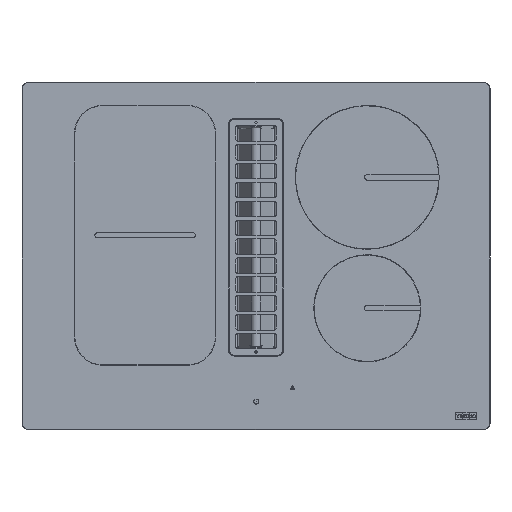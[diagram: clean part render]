
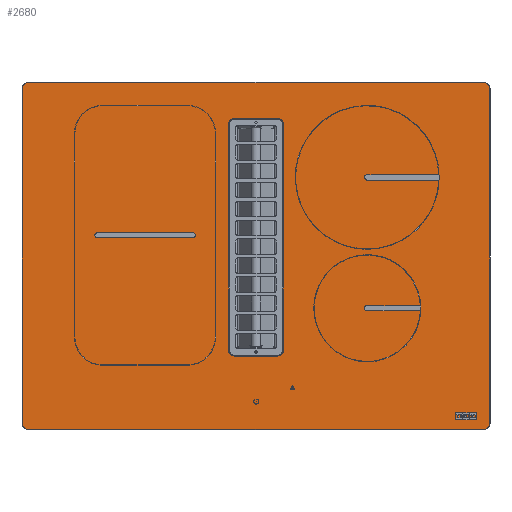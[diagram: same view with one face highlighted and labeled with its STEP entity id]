
A CAD part, top view. The second image highlights one B-rep face of the part: STEP entity #2680.
In plain terms, the highlighted planar face has unit normal (0, 0, 1).
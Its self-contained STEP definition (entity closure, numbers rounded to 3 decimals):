
#28=TRIMMED_CURVE($,#705,(#30401),(#30402),.T.,.CARTESIAN.);
#35=TRIMMED_CURVE($,#712,(#30424),(#30425),.T.,.CARTESIAN.);
#42=TRIMMED_CURVE($,#719,(#30447),(#30448),.T.,.CARTESIAN.);
#48=TRIMMED_CURVE($,#725,(#30467),(#30468),.T.,.CARTESIAN.);
#49=TRIMMED_CURVE($,#726,(#30610),(#30611),.T.,.CARTESIAN.);
#54=TRIMMED_CURVE($,#731,(#30625),(#30626),.T.,.CARTESIAN.);
#58=TRIMMED_CURVE($,#735,(#30637),(#30638),.T.,.CARTESIAN.);
#62=TRIMMED_CURVE($,#739,(#30649),(#30650),.T.,.CARTESIAN.);
#705=CIRCLE('',#19973,9.372);
#712=CIRCLE('',#19980,9.372);
#719=CIRCLE('',#19987,9.372);
#725=CIRCLE('',#19993,9.372);
#726=CIRCLE('',#19994,8.628);
#731=CIRCLE('',#19999,8.628);
#735=CIRCLE('',#20003,8.628);
#739=CIRCLE('',#20007,8.628);
#2680=ADVANCED_FACE('',(#3803,#3531),#19373,.T.);
#3531=FACE_BOUND('',#4885,.T.);
#3803=FACE_OUTER_BOUND('',#4884,.T.);
#4884=EDGE_LOOP('',(#6932,#6933,#6934,#6935,#6936,#6937,#6938,#6939));
#4885=EDGE_LOOP('',(#6940,#6941,#6942,#6943,#6944,#6945,#6946,#6947));
#6932=ORIENTED_EDGE('',*,*,#12154,.T.);
#6933=ORIENTED_EDGE('',*,*,#12170,.T.);
#6934=ORIENTED_EDGE('',*,*,#12155,.T.);
#6935=ORIENTED_EDGE('',*,*,#12178,.T.);
#6936=ORIENTED_EDGE('',*,*,#12156,.T.);
#6937=ORIENTED_EDGE('',*,*,#12186,.T.);
#6938=ORIENTED_EDGE('',*,*,#12157,.T.);
#6939=ORIENTED_EDGE('',*,*,#12193,.T.);
#6940=ORIENTED_EDGE('',*,*,#12264,.T.);
#6941=ORIENTED_EDGE('',*,*,#12158,.T.);
#6942=ORIENTED_EDGE('',*,*,#12269,.T.);
#6943=ORIENTED_EDGE('',*,*,#12159,.T.);
#6944=ORIENTED_EDGE('',*,*,#12273,.T.);
#6945=ORIENTED_EDGE('',*,*,#12160,.T.);
#6946=ORIENTED_EDGE('',*,*,#12277,.T.);
#6947=ORIENTED_EDGE('',*,*,#12161,.T.);
#12154=EDGE_CURVE('',#17911,#17912,#15371,.T.);
#12155=EDGE_CURVE('',#17913,#17914,#15372,.T.);
#12156=EDGE_CURVE('',#17915,#17916,#15373,.T.);
#12157=EDGE_CURVE('',#17917,#17918,#15374,.T.);
#12158=EDGE_CURVE('',#17919,#17920,#15375,.T.);
#12159=EDGE_CURVE('',#17921,#17922,#15376,.T.);
#12160=EDGE_CURVE('',#17923,#17924,#15377,.T.);
#12161=EDGE_CURVE('',#17925,#17926,#15378,.T.);
#12170=EDGE_CURVE('',#17912,#17913,#28,.T.);
#12178=EDGE_CURVE('',#17914,#17915,#35,.T.);
#12186=EDGE_CURVE('',#17916,#17917,#42,.T.);
#12193=EDGE_CURVE('',#17918,#17911,#48,.T.);
#12264=EDGE_CURVE('',#17926,#17919,#49,.T.);
#12269=EDGE_CURVE('',#17920,#17921,#54,.T.);
#12273=EDGE_CURVE('',#17922,#17923,#58,.T.);
#12277=EDGE_CURVE('',#17924,#17925,#62,.T.);
#15371=B_SPLINE_CURVE_WITH_KNOTS('',1,(#30361,#30362),.UNSPECIFIED.,.F.,
 .F.,(2,2),(0.,680.),.UNSPECIFIED.);
#15372=B_SPLINE_CURVE_WITH_KNOTS('',1,(#30363,#30364),.UNSPECIFIED.,.F.,
 .F.,(2,2),(0.,500.),.UNSPECIFIED.);
#15373=B_SPLINE_CURVE_WITH_KNOTS('',1,(#30365,#30366),.UNSPECIFIED.,.F.,
 .F.,(2,2),(0.,680.),.UNSPECIFIED.);
#15374=B_SPLINE_CURVE_WITH_KNOTS('',1,(#30367,#30368),.UNSPECIFIED.,.F.,
 .F.,(2,2),(0.,500.),.UNSPECIFIED.);
#15375=B_SPLINE_CURVE_WITH_KNOTS('',1,(#30369,#30370),.UNSPECIFIED.,.F.,
 .F.,(2,2),(0.,65.),.UNSPECIFIED.);
#15376=B_SPLINE_CURVE_WITH_KNOTS('',1,(#30371,#30372),.UNSPECIFIED.,.F.,
 .F.,(2,2),(0.,338.),.UNSPECIFIED.);
#15377=B_SPLINE_CURVE_WITH_KNOTS('',1,(#30373,#30374),.UNSPECIFIED.,.F.,
 .F.,(2,2),(0.,65.),.UNSPECIFIED.);
#15378=B_SPLINE_CURVE_WITH_KNOTS('',1,(#30375,#30376),.UNSPECIFIED.,.F.,
 .F.,(2,2),(0.,338.),.UNSPECIFIED.);
#17911=VERTEX_POINT('',#30277);
#17912=VERTEX_POINT('',#30278);
#17913=VERTEX_POINT('',#30279);
#17914=VERTEX_POINT('',#30280);
#17915=VERTEX_POINT('',#30281);
#17916=VERTEX_POINT('',#30282);
#17917=VERTEX_POINT('',#30283);
#17918=VERTEX_POINT('',#30284);
#17919=VERTEX_POINT('',#30285);
#17920=VERTEX_POINT('',#30286);
#17921=VERTEX_POINT('',#30287);
#17922=VERTEX_POINT('',#30288);
#17923=VERTEX_POINT('',#30289);
#17924=VERTEX_POINT('',#30290);
#17925=VERTEX_POINT('',#30291);
#17926=VERTEX_POINT('',#30292);
#19373=PLANE('',#19929);
#19929=AXIS2_PLACEMENT_3D('',#29268,#21466,$);
#19973=AXIS2_PLACEMENT_3D($,#30400,#21517,#21518);
#19980=AXIS2_PLACEMENT_3D($,#30423,#21531,#21532);
#19987=AXIS2_PLACEMENT_3D($,#30446,#21545,#21546);
#19993=AXIS2_PLACEMENT_3D($,#30466,#21557,#21558);
#19994=AXIS2_PLACEMENT_3D($,#30609,#21559,#21560);
#19999=AXIS2_PLACEMENT_3D($,#30624,#21569,#21570);
#20003=AXIS2_PLACEMENT_3D($,#30636,#21577,#21578);
#20007=AXIS2_PLACEMENT_3D($,#30648,#21585,#21586);
#21466=DIRECTION('',(0.,0.,1.));
#21517=DIRECTION('',(0.,0.,1.));
#21518=DIRECTION('',(0.,1.,0.));
#21531=DIRECTION('',(0.,0.,1.));
#21532=DIRECTION('',(-1.,0.,0.));
#21545=DIRECTION('',(0.,0.,1.));
#21546=DIRECTION('',(0.,-1.,0.));
#21557=DIRECTION('',(0.,0.,1.));
#21558=DIRECTION('',(1.,0.,0.));
#21559=DIRECTION('',(0.,0.,-1.));
#21560=DIRECTION('',(-1.,0.,0.));
#21569=DIRECTION('',(0.,0.,-1.));
#21570=DIRECTION('',(0.,1.,0.));
#21577=DIRECTION('',(0.,0.,-1.));
#21578=DIRECTION('',(1.,0.,0.));
#21585=DIRECTION('',(0.,0.,-1.));
#21586=DIRECTION('',(0.,-1.,0.));
#29268=CARTESIAN_POINT('',(-403.295,-397.636,141.95));
#30277=CARTESIAN_POINT('',(357.295,174.326,141.95));
#30278=CARTESIAN_POINT('',(-322.705,174.326,141.95));
#30279=CARTESIAN_POINT('',(-332.078,164.953,141.95));
#30280=CARTESIAN_POINT('',(-332.078,-335.047,141.95));
#30281=CARTESIAN_POINT('',(-322.705,-344.419,141.95));
#30282=CARTESIAN_POINT('',(357.295,-344.419,141.95));
#30283=CARTESIAN_POINT('',(366.667,-335.047,141.95));
#30284=CARTESIAN_POINT('',(366.667,164.953,141.95));
#30285=CARTESIAN_POINT('',(-15.205,120.581,141.95));
#30286=CARTESIAN_POINT('',(49.795,120.581,141.95));
#30287=CARTESIAN_POINT('',(58.422,111.953,141.95));
#30288=CARTESIAN_POINT('',(58.422,-226.047,141.95));
#30289=CARTESIAN_POINT('',(49.795,-234.674,141.95));
#30290=CARTESIAN_POINT('',(-15.205,-234.674,141.95));
#30291=CARTESIAN_POINT('',(-23.833,-226.047,141.95));
#30292=CARTESIAN_POINT('',(-23.833,111.953,141.95));
#30361=CARTESIAN_POINT('',(357.295,174.326,141.95));
#30362=CARTESIAN_POINT('',(-322.705,174.326,141.95));
#30363=CARTESIAN_POINT('',(-332.078,164.953,141.95));
#30364=CARTESIAN_POINT('',(-332.078,-335.047,141.95));
#30365=CARTESIAN_POINT('',(-322.705,-344.419,141.95));
#30366=CARTESIAN_POINT('',(357.295,-344.419,141.95));
#30367=CARTESIAN_POINT('',(366.667,-335.047,141.95));
#30368=CARTESIAN_POINT('',(366.667,164.953,141.95));
#30369=CARTESIAN_POINT('',(-15.205,120.581,141.95));
#30370=CARTESIAN_POINT('',(49.795,120.581,141.95));
#30371=CARTESIAN_POINT('',(58.422,111.953,141.95));
#30372=CARTESIAN_POINT('',(58.422,-226.047,141.95));
#30373=CARTESIAN_POINT('',(49.795,-234.674,141.95));
#30374=CARTESIAN_POINT('',(-15.205,-234.674,141.95));
#30375=CARTESIAN_POINT('',(-23.833,-226.047,141.95));
#30376=CARTESIAN_POINT('',(-23.833,111.953,141.95));
#30400=CARTESIAN_POINT('',(-322.705,164.953,141.95));
#30401=CARTESIAN_POINT('',(-322.705,174.326,141.95));
#30402=CARTESIAN_POINT('',(-332.078,164.953,141.95));
#30423=CARTESIAN_POINT('',(-322.705,-335.047,141.95));
#30424=CARTESIAN_POINT('',(-332.078,-335.047,141.95));
#30425=CARTESIAN_POINT('',(-322.705,-344.419,141.95));
#30446=CARTESIAN_POINT('',(357.295,-335.047,141.95));
#30447=CARTESIAN_POINT('',(357.295,-344.419,141.95));
#30448=CARTESIAN_POINT('',(366.667,-335.047,141.95));
#30466=CARTESIAN_POINT('',(357.295,164.953,141.95));
#30467=CARTESIAN_POINT('',(366.667,164.953,141.95));
#30468=CARTESIAN_POINT('',(357.295,174.326,141.95));
#30609=CARTESIAN_POINT('',(-15.205,111.953,141.95));
#30610=CARTESIAN_POINT('',(-23.833,111.953,141.95));
#30611=CARTESIAN_POINT('',(-15.205,120.581,141.95));
#30624=CARTESIAN_POINT('',(49.795,111.953,141.95));
#30625=CARTESIAN_POINT('',(49.795,120.581,141.95));
#30626=CARTESIAN_POINT('',(58.422,111.953,141.95));
#30636=CARTESIAN_POINT('',(49.795,-226.047,141.95));
#30637=CARTESIAN_POINT('',(58.422,-226.047,141.95));
#30638=CARTESIAN_POINT('',(49.795,-234.674,141.95));
#30648=CARTESIAN_POINT('',(-15.205,-226.047,141.95));
#30649=CARTESIAN_POINT('',(-15.205,-234.674,141.95));
#30650=CARTESIAN_POINT('',(-23.833,-226.047,141.95));
